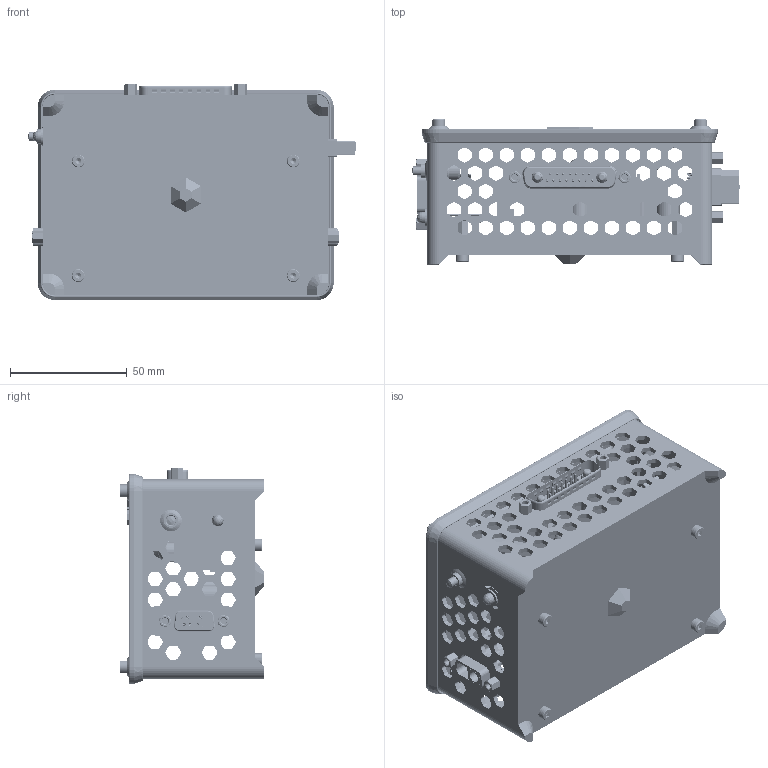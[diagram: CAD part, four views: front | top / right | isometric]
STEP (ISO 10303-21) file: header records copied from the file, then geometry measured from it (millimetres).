
FILE_DESCRIPTION (( 'STEP AP203' ), '1' );
FILE_NAME ('FMS_FLY v3 Assembly_External Download_Jun 2022.STEP', '2022-07-12T05:11:24', ( '' ), ( '' ), 'SwSTEP 2.0', 'SolidWorks 2021', '' );
FILE_SCHEMA (( 'CONFIG_CONTROL_DESIGN' ));
Length unit declared in the file: millimetre
Products named in the file (17): FMS_FLY v3_Housing Cover_Jun 2022; Common_LED Holder Housing_Jun 2022; XT60 Female; Standoff Nut; D Sub 2W2 (Female)_1727040042; D-Sub Connector_9S Solder Cup (Female)_L77SDE09S; LED (5mm); LED Mounting Clips (5mm)_C-174; socket head cap screw_am_B18.3.1M - 3 x 0.5 x 5 Hex SHCS -- 5NHX; XT60 Fixing Plate; D Sub 17W2 (Male)_09693115172; Pushbutton Switch_MP0016; FMS_FLY v3_Housing_Jun 2022; Spectronik Protium FLY v3; socket head cap screw_am_B18.3.1M - 3 x 0.5 x 10 Hex SHCS -- 10NHX; D Sub Contact (Male)_09692817423; FMS_FLY v3 Assembly_External Download_Jun 2022
Assembly tree (32 placements, depth 2):
  FMS_FLY v3 Assembly_External Download_Jun 2022
    Spectronik Protium FLY v3
    FMS_FLY v3_Housing_Jun 2022
    FMS_FLY v3_Housing Cover_Jun 2022
    Common_LED Holder Housing_Jun 2022
    D Sub 2W2 (Female)_1727040042
    Pushbutton Switch_MP0016
    D-Sub Connector_9S Solder Cup (Female)_L77SDE09S
    LED (5mm)
    LED Mounting Clips (5mm)_C-174
    XT60 Female
    XT60 Fixing Plate
    D Sub 17W2 (Male)_09693115172
    D Sub Contact (Male)_09692817423  x2
    socket head cap screw_am_B18.3.1M - 3 x 0.5 x 5 Hex SHCS -- 5NHX  x4
    socket head cap screw_am_B18.3.1M - 3 x 0.5 x 10 Hex SHCS -- 10NHX  x8
    Standoff Nut  x6
Bounding box: 140.01 x 62 x 92.5 mm (x, y, z)
Volume: 124526.1 mm3; surface area: 126439.5 mm2
Topology: 43 solids, 53 shells, 5987 faces, 15545 edges, 9867 vertices
Faces by surface type: plane 2405, cylinder 1991, bspline 1182, cone 302, torus 107
Entity records: 214267 total; most frequent: CARTESIAN_POINT 80664, ORIENTED_EDGE 29220, DIRECTION 24647, EDGE_CURVE 14610, VERTEX_POINT 9328, AXIS2_PLACEMENT_3D 8530, VECTOR 7587, LINE 7587
